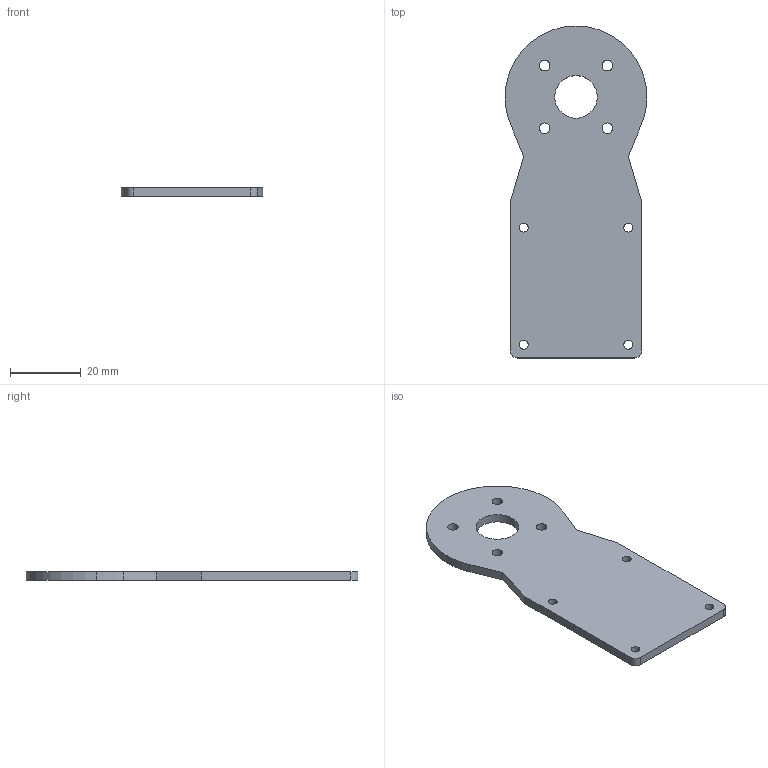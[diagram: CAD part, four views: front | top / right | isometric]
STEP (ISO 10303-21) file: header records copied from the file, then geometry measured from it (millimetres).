
FILE_DESCRIPTION (( 'STEP AP203' ), '1' );
FILE_NAME ('Gimbal Motor Plate v2.STEP', '2016-10-20T20:49:32', ( 'drhyoo' ), ( '' ), 'SwSTEP 2.0', 'SolidWorks 2016', '' );
FILE_SCHEMA (( 'CONFIG_CONTROL_DESIGN' ));
Length unit declared in the file: millimetre
Products named in the file (1): Gimbal Motor Plate v2
Bounding box: 40 x 93.59 x 2.5 mm (x, y, z)
Volume: 7803.7 mm3; surface area: 7130.6 mm2
Topology: 1 solids, 1 shells, 32 faces, 90 edges, 60 vertices
Faces by surface type: cylinder 23, plane 9
Entity records: 1173 total; most frequent: DIRECTION 202, CARTESIAN_POINT 183, ORIENTED_EDGE 180, EDGE_CURVE 90, AXIS2_PLACEMENT_3D 79, VERTEX_POINT 60, EDGE_LOOP 50, CIRCLE 46
